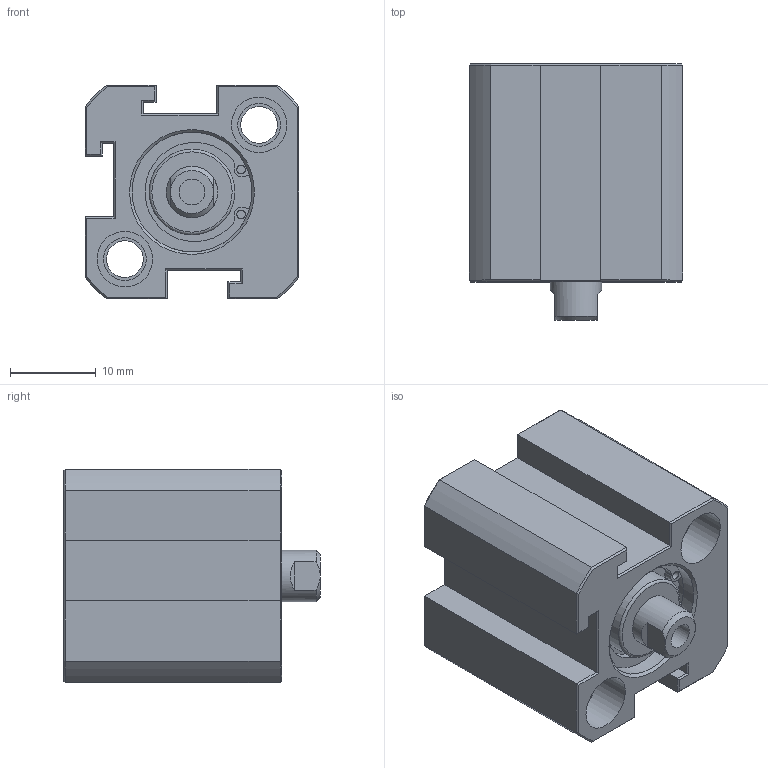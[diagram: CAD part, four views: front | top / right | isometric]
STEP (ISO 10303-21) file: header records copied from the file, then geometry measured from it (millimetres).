
FILE_DESCRIPTION(/* description */ (''),/* implementation_level */ '2;1');
FILE_NAME(/* name */ 'AJC-SD12X5N',/* time_stamp */ '2019-07-04T10:00:15+08:00',/* author */ ('JEFF HUANG'),/* organization */ ('TAIWAN AMAC CLAMP INDUSTRIAL CO., LTD.'),/* preprocessor_version */ 'ST-DEVELOPER v16.7',/* originating_system */ 'DEX',/* authorisation */ $);
FILE_SCHEMA (('AUTOMOTIVE_DESIGN {1 0 10303 214 3 1 1}'));
Length unit declared in the file: millimetre
Products named in the file (1): AJC-SD12X5N
Bounding box: 25 x 30 x 25 mm (x, y, z)
Volume: 11897 mm3; surface area: 5691.8 mm2
Topology: 1 solids, 1 shells, 152 faces, 328 edges, 198 vertices
Faces by surface type: plane 100, cylinder 38, cone 12, torus 2
Full cylindrical faces by diameter (mm): 1 x4, 3 x1, 4.3 x2, 5 x6, 6 x1, 6.5 x4, 10 x2, 14 x2
Entity records: 5010 total; most frequent: CARTESIAN_POINT 707, DIRECTION 680, ORIENTED_EDGE 598, EDGE_CURVE 299, AXIS2_PLACEMENT_3D 248, EDGE_LOOP 202, FACE_BOUND 202, VERTEX_POINT 195
